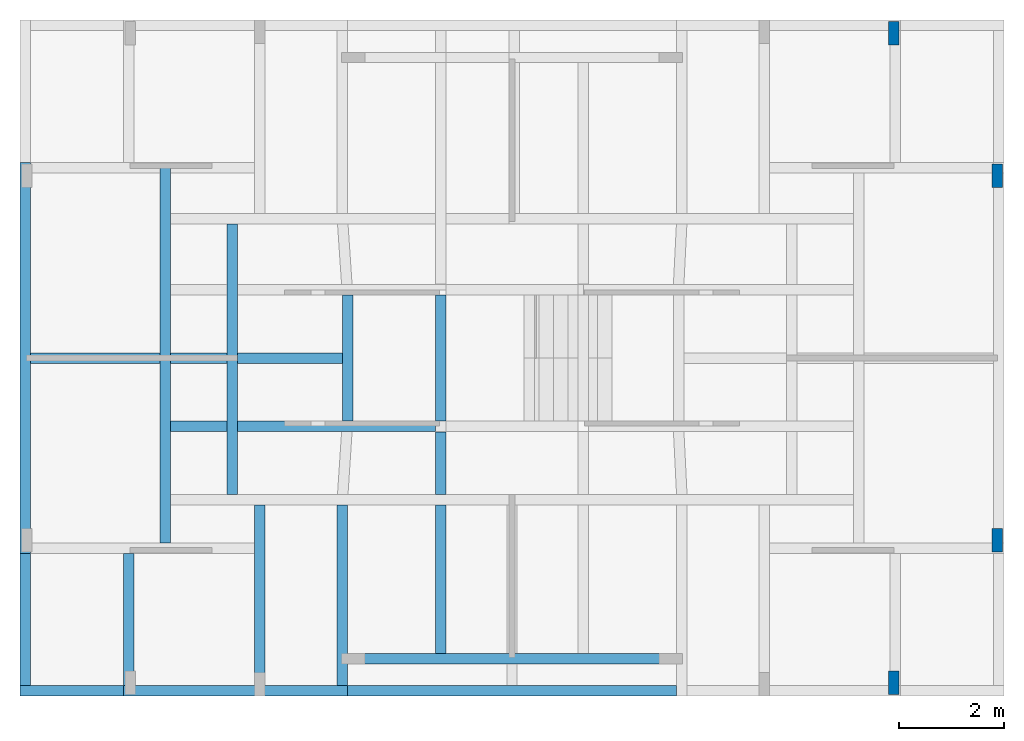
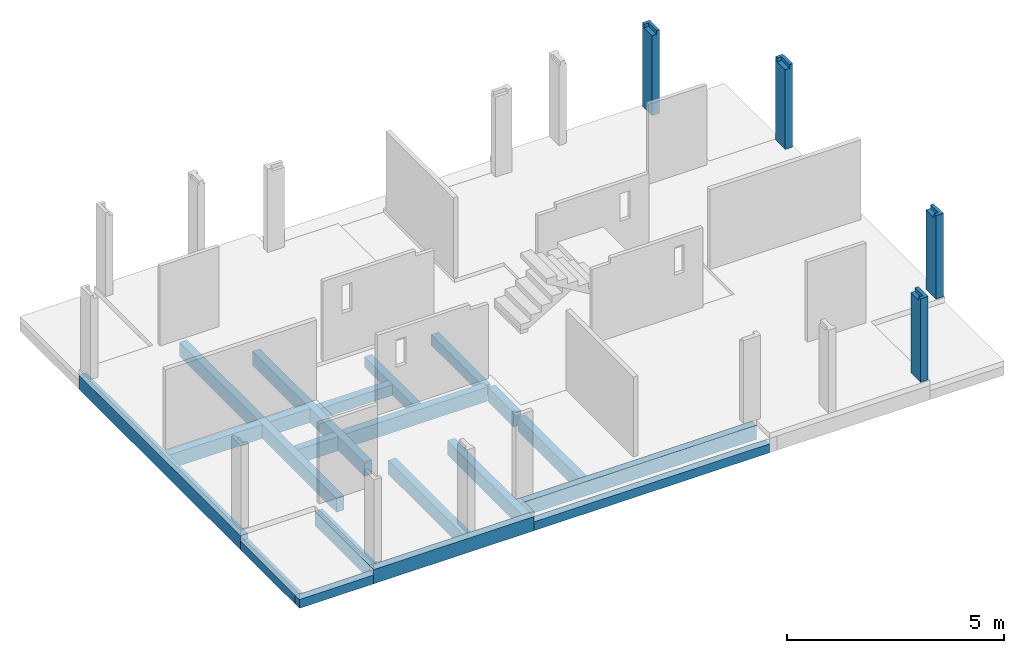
# One storey, part 1 of 7: 17 beams, 4 columns.
"""IFC4 building model written with IfcOpenShell, lengths in metres."""

import ifcopenshell
import ifcopenshell.guid

model = None  # the IFC model being written
_history = None  # IfcOwnerHistory: only IFC2X3 demands one
_inside = {}  # id of a spatial element -> (the spatial element, [elements in it])
_under = {}  # id of a project, library or spatial element -> (it, [spatial elements below it])
_declared = {}  # id of a project -> (the project, [libraries it declares])
_typed = {}  # id of a type object -> (the type object, [elements of that type])
_made_of = {}  # id of a material, layer set ... -> (it, [elements and type objects made of it])


def new_model(schema):
    """Start an empty IFC model of exactly this schema.

    Asked for "IFC4X3", IfcOpenShell would pick the latest addendum, in which some entities
    have other attributes; the version numbers below select the first issue.
    IFC2X3 requires an IfcOwnerHistory on every rooted entity: one is made here for all.
    """
    global model, _history
    if schema == "IFC4X3":
        model = ifcopenshell.file(schema_version=(4, 3, 0, 0))
    else:
        model = ifcopenshell.file(schema=schema)
    _inside.clear()
    _under.clear()
    _declared.clear()
    _typed.clear()
    _made_of.clear()
    _history = None
    if model.schema == "IFC2X3":
        org = make("IfcOrganization", Name="unknown")
        user = make(
            "IfcPersonAndOrganization",
            ThePerson=make("IfcPerson", FamilyName="unknown"),
            TheOrganization=org,
        )
        app = make(
            "IfcApplication",
            ApplicationDeveloper=org,
            Version="unknown",
            ApplicationFullName="unknown",
            ApplicationIdentifier="unknown",
        )
        _history = make(
            "IfcOwnerHistory",
            OwningUser=user,
            OwningApplication=app,
            ChangeAction="ADDED",
            CreationDate=0,
        )
    return model


def make(cls, **values):
    """One entity of the class cls with the attributes given. An attribute that is None is left unset."""
    return model.create_entity(
        cls, **{name: value for name, value in values.items() if value is not None}
    )


def entity(cls, *values):
    """Any entity or typed value of the class cls, its attributes in the order of the schema. None: left unset."""
    e = model.create_entity(cls)
    for i, value in enumerate(values):
        if value is not None:
            e[i] = value
    return e


def rooted(cls, **values):
    """An entity with a GlobalId (a new one), such as an element, a storey or a relation."""
    return make(cls, GlobalId=ifcopenshell.guid.new(), OwnerHistory=_history, **values)


def si_unit(unit_type, name, prefix=None):
    """IfcSIUnit, for example si_unit("LENGTHUNIT", "METRE", prefix="MILLI")."""
    return make("IfcSIUnit", UnitType=unit_type, Prefix=prefix, Name=name)


def converted_unit(unit_type, name, factor, base, dimensions=None, offset=None):
    """IfcConversionBasedUnit, such as the inch: factor (a typed value) times the base unit."""
    return make(
        "IfcConversionBasedUnit"
        if offset is None
        else "IfcConversionBasedUnitWithOffset",
        ConversionOffset=offset,
        Dimensions=None
        if dimensions is None
        else entity("IfcDimensionalExponents", *dimensions),
        UnitType=unit_type,
        Name=name,
        ConversionFactor=make(
            "IfcMeasureWithUnit", ValueComponent=factor, UnitComponent=base
        ),
    )


def derived_unit(unit_type, elements):
    """IfcDerivedUnit: a product of units, each with its exponent."""
    return make(
        "IfcDerivedUnit",
        Elements=[
            make("IfcDerivedUnitElement", Unit=unit, Exponent=power)
            for unit, power in elements
        ],
        UnitType=unit_type,
    )


def assignment(units):
    """IfcUnitAssignment: the units of a project."""
    return None if units is None else make("IfcUnitAssignment", Units=units)


def point(xyz):
    """IfcCartesianPoint."""
    return None if xyz is None else make("IfcCartesianPoint", Coordinates=xyz)


def direction(xyz):
    """IfcDirection."""
    return None if xyz is None else make("IfcDirection", DirectionRatios=xyz)


def frame(location, z_axis=None, x_axis=None):
    """IfcAxis2Placement3D, a coordinate frame: its origin and axes. An axis left out is left unset."""
    return make(
        "IfcAxis2Placement3D",
        Location=point(location),
        Axis=direction(z_axis),
        RefDirection=direction(x_axis),
    )


def origin():
    """The frame at (0, 0, 0) with its axes left unset."""
    return frame((0.0, 0.0, 0.0))


def place(relative_to, where):
    """IfcLocalPlacement: puts the frame where relative to a parent placement (None: the world)."""
    return make(
        "IfcLocalPlacement", PlacementRelTo=relative_to, RelativePlacement=where
    )


def context(
    kind, dimensions, precision=None, world=None, true_north=None, identifier=None
):
    """IfcGeometricRepresentationContext, for example the 3D "Model" context."""
    return make(
        "IfcGeometricRepresentationContext",
        ContextIdentifier=identifier,
        ContextType=kind,
        CoordinateSpaceDimension=dimensions,
        Precision=precision,
        WorldCoordinateSystem=world,
        TrueNorth=true_north,
    )


def subcontext(parent, identifier, kind, view, scale=None):
    """IfcGeometricRepresentationSubContext, for example "Body" below "Model"."""
    return make(
        "IfcGeometricRepresentationSubContext",
        ContextIdentifier=identifier,
        ContextType=kind,
        ParentContext=parent,
        TargetScale=scale,
        TargetView=view,
    )


def project(units=None, contexts=None):
    """IfcProject with its units and contexts."""
    return rooted(
        "IfcProject",
        Name="project",
        RepresentationContexts=contexts,
        UnitsInContext=assignment(units),
    )


def spatial(cls, under=None, at=None, **own):
    """A site, building, storey or space (cls), placed at a placement, below another one or the project."""
    s = rooted(cls, ObjectPlacement=at, **own)
    if under is not None:
        _under.setdefault(under.id(), (under, []))[1].append(s)
    return s


def point_list(points):
    """IfcCartesianPointList2D or 3D."""
    cls = (
        "IfcCartesianPointList2D" if len(points[0]) == 2 else "IfcCartesianPointList3D"
    )
    return make(cls, CoordList=points)


def indexed_curve(points, segments=None, self_intersect=None):
    """IfcIndexedPolyCurve: lines and arcs through numbered points (the first is 1)."""
    return make(
        "IfcIndexedPolyCurve",
        Points=point_list(points),
        Segments=segments,
        SelfIntersect=self_intersect,
    )


def outline(outer, holes=None, kind="AREA"):
    """IfcArbitraryClosedProfileDef: a profile drawn as a closed curve; with holes, ...WithVoids."""
    if holes is None:
        return make("IfcArbitraryClosedProfileDef", ProfileType=kind, OuterCurve=outer)
    return make(
        "IfcArbitraryProfileDefWithVoids",
        ProfileType=kind,
        OuterCurve=outer,
        InnerCurves=holes,
    )


def extrude(swept, where, along, depth):
    """IfcExtrudedAreaSolid: the profile swept, set in the frame where, extruded along a direction by depth."""
    return make(
        "IfcExtrudedAreaSolid",
        SweptArea=swept,
        Position=where,
        ExtrudedDirection=direction(along),
        Depth=depth,
    )


def polygons(points, faces, closed=None, point_numbers=None):
    """IfcPolygonalFaceSet: a face is its outer loop, then its inner loops; points numbered from 1."""
    made = []
    for loops in faces:
        if len(loops) == 1:
            made.append(make("IfcIndexedPolygonalFace", CoordIndex=loops[0]))
        else:
            made.append(
                make(
                    "IfcIndexedPolygonalFaceWithVoids",
                    CoordIndex=loops[0],
                    InnerCoordIndices=loops[1:],
                )
            )
    return make(
        "IfcPolygonalFaceSet",
        Coordinates=point_list(points),
        Closed=closed,
        Faces=made,
        PnIndex=point_numbers,
    )


def shape(context_of_items, identifier, shape_type, items):
    """IfcShapeRepresentation: the items that make up one representation, for example the "Body"."""
    return make(
        "IfcShapeRepresentation",
        ContextOfItems=context_of_items,
        RepresentationIdentifier=identifier,
        RepresentationType=shape_type,
        Items=items,
    )


def source(mapping_origin, context_of_items, identifier, shape_type, items):
    """IfcRepresentationMap: a shape defined once, which mapped items show again and again."""
    return make(
        "IfcRepresentationMap",
        MappingOrigin=mapping_origin,
        MappedRepresentation=shape(context_of_items, identifier, shape_type, items),
    )


def transform(
    local_origin,
    x_axis=None,
    y_axis=None,
    z_axis=None,
    scale=None,
    scale2=None,
    scale3=None,
    uniform=True,
):
    """IfcCartesianTransformationOperator3D, or its non-uniform kind. x_axis, y_axis, z_axis: its Axis1, 2, 3."""
    if uniform:
        return make(
            "IfcCartesianTransformationOperator3D",
            Axis1=direction(x_axis),
            Axis2=direction(y_axis),
            LocalOrigin=point(local_origin),
            Scale=scale,
            Axis3=direction(z_axis),
        )
    return make(
        "IfcCartesianTransformationOperator3DnonUniform",
        Axis1=direction(x_axis),
        Axis2=direction(y_axis),
        LocalOrigin=point(local_origin),
        Scale=scale,
        Axis3=direction(z_axis),
        Scale2=scale2,
        Scale3=scale3,
    )


def mapped(mapping_source, mapping_target):
    """IfcMappedItem: shows the shape of a source again, moved by a transform."""
    return make(
        "IfcMappedItem", MappingSource=mapping_source, MappingTarget=mapping_target
    )


def material(Name=None, Category=None):
    """IfcMaterial."""
    return make("IfcMaterial", Name=Name, Category=Category)


def made_of(thing, what):
    """Note that an element or type object is made of a material, layer set ...; save() writes the relation."""
    if what is not None:
        _made_of.setdefault(what.id(), (what, []))[1].append(thing)
    return thing


def type_object(cls, material=None, **own):
    """A type object (cls), such as IfcWallType, which elements share."""
    return made_of(rooted(cls, **own), material)


def type_shapes(of_type, sources):
    """Give a type object the sources (RepresentationMaps) that its elements show as mapped items."""
    of_type.RepresentationMaps = sources


def element(
    cls,
    number,
    at=None,
    inside=None,
    cuts=None,
    type_object=None,
    material=None,
    context=None,
    identifier="Body",
    shape_type=None,
    held_by="IfcProductDefinitionShape",
    body=None,
    shapes=None,
    **own,
):
    """One element of the class cls, such as IfcWall. Its Tag is "e" and its number.

    at: its placement. inside: the storey or other place that contains it. cuts: it is an
    opening in that element (IfcRelVoidsElement). A single representation is given by context,
    identifier, shape_type and body (its items); several are given by shapes. held_by: the class
    of the entity that holds the representations. save() writes the other relations.
    """
    e = rooted(cls, Tag="e%d" % number, ObjectPlacement=at, **own)
    if body is not None:
        shapes = [shape(context, identifier, shape_type, body)]
    if shapes is not None:
        e.Representation = make(held_by, Representations=shapes)
    if inside is not None:
        _inside.setdefault(inside.id(), (inside, []))[1].append(e)
    if cuts is not None:
        rooted(
            "IfcRelVoidsElement", RelatingBuildingElement=cuts, RelatedOpeningElement=e
        )
    if type_object is not None:
        _typed.setdefault(type_object.id(), (type_object, []))[1].append(e)
    return made_of(e, material)


def aggregate(whole, parts):
    """IfcRelAggregates: a whole, such as a stair, and the parts it consists of."""
    return rooted("IfcRelAggregates", RelatingObject=whole, RelatedObjects=parts)


def save(model, path):
    """Write the relations noted so far, then the file.

    IfcRelAggregates (storeys below a building ...), IfcRelContainedInSpatialStructure (elements
    in a storey), IfcRelDefinesByType, IfcRelAssociatesMaterial and IfcRelDeclares: one each for
    every whole, place, type object, material and project.
    """
    for whole, parts in _under.values():
        aggregate(whole, parts)
    for where, things in _inside.values():
        rooted(
            "IfcRelContainedInSpatialStructure",
            RelatedElements=things,
            RelatingStructure=where,
        )
    for kind, things in _typed.values():
        rooted("IfcRelDefinesByType", RelatedObjects=things, RelatingType=kind)
    for what, things in _made_of.values():
        rooted("IfcRelAssociatesMaterial", RelatedObjects=things, RelatingMaterial=what)
    for by, libraries in _declared.values():
        rooted("IfcRelDeclares", RelatingContext=by, RelatedDefinitions=libraries)
    model.write(path)


model = new_model("IFC4")

# Units and contexts
model_context = context("Model", 3, precision=1e-05, world=origin(), true_north=direction((6.123031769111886e-17, 1.0)))
body_context = subcontext(model_context, "Body", "Model", "MODEL_VIEW")
ifc_project = project(units=[si_unit("LENGTHUNIT", "METRE"), si_unit("AREAUNIT", "SQUARE_METRE"), si_unit("VOLUMEUNIT", "CUBIC_METRE"), converted_unit("PLANEANGLEUNIT", "DEGREE", entity("IfcRatioMeasure", 0.017453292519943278), si_unit("PLANEANGLEUNIT", "RADIAN"), dimensions=[0, 0, 0, 0, 0, 0, 0]), si_unit("MASSUNIT", "GRAM", prefix="KILO"), derived_unit("MASSDENSITYUNIT", [(si_unit("MASSUNIT", "GRAM", prefix="KILO"), 1), (si_unit("LENGTHUNIT", "METRE"), -3)]), derived_unit("IONCONCENTRATIONUNIT", [(si_unit("MASSUNIT", "GRAM", prefix="KILO"), 1), (si_unit("LENGTHUNIT", "METRE"), -3)]), derived_unit("MOMENTOFINERTIAUNIT", [(si_unit("LENGTHUNIT", "METRE"), 4)]), si_unit("TIMEUNIT", "SECOND"), si_unit("FREQUENCYUNIT", "HERTZ"), si_unit("THERMODYNAMICTEMPERATUREUNIT", "DEGREE_CELSIUS"), derived_unit("THERMALTRANSMITTANCEUNIT", [(si_unit("MASSUNIT", "GRAM", prefix="KILO"), 1), (si_unit("THERMODYNAMICTEMPERATUREUNIT", "KELVIN"), -1), (si_unit("TIMEUNIT", "SECOND"), -3)]), derived_unit("THERMALCONDUCTANCEUNIT", [(si_unit("MASSUNIT", "GRAM", prefix="KILO"), 1), (si_unit("THERMODYNAMICTEMPERATUREUNIT", "KELVIN"), -1), (si_unit("TIMEUNIT", "SECOND"), -3), (si_unit("LENGTHUNIT", "METRE"), 1)]), derived_unit("VOLUMETRICFLOWRATEUNIT", [(si_unit("LENGTHUNIT", "METRE"), 3), (si_unit("TIMEUNIT", "SECOND"), -1)]), derived_unit("MASSFLOWRATEUNIT", [(si_unit("MASSUNIT", "GRAM", prefix="KILO"), 1), (si_unit("TIMEUNIT", "SECOND"), -1)]), derived_unit("ROTATIONALFREQUENCYUNIT", [(si_unit("TIMEUNIT", "SECOND"), -1)]), si_unit("ELECTRICCURRENTUNIT", "AMPERE"), si_unit("ELECTRICVOLTAGEUNIT", "VOLT"), si_unit("POWERUNIT", "WATT"), si_unit("FORCEUNIT", "NEWTON", prefix="KILO"), si_unit("ILLUMINANCEUNIT", "LUX"), si_unit("LUMINOUSFLUXUNIT", "LUMEN"), si_unit("LUMINOUSINTENSITYUNIT", "CANDELA"), derived_unit("USERDEFINED", [(si_unit("MASSUNIT", "GRAM", prefix="KILO"), -1), (si_unit("LENGTHUNIT", "METRE"), -2), (si_unit("TIMEUNIT", "SECOND"), 3), (si_unit("LUMINOUSFLUXUNIT", "LUMEN"), 1)]), derived_unit("USERDEFINED", [(si_unit("MASSUNIT", "GRAM", prefix="KILO"), 1), (si_unit("TIMEUNIT", "SECOND"), -3), (si_unit("LENGTHUNIT", "METRE"), 3), (si_unit("ELECTRICCURRENTUNIT", "AMPERE"), -2)]), derived_unit("SOUNDPOWERUNIT", [(si_unit("MASSUNIT", "GRAM", prefix="KILO"), 1), (si_unit("TIMEUNIT", "SECOND"), -3), (si_unit("LENGTHUNIT", "METRE"), 2)]), derived_unit("SOUNDPRESSUREUNIT", [(si_unit("MASSUNIT", "GRAM", prefix="KILO"), 1), (si_unit("LENGTHUNIT", "METRE"), -1), (si_unit("TIMEUNIT", "SECOND"), -2)]), derived_unit("LINEARVELOCITYUNIT", [(si_unit("LENGTHUNIT", "METRE"), 1), (si_unit("TIMEUNIT", "SECOND"), -1)]), si_unit("PRESSUREUNIT", "PASCAL"), derived_unit("USERDEFINED", [(si_unit("MASSUNIT", "GRAM", prefix="KILO"), 1), (si_unit("LENGTHUNIT", "METRE"), -2), (si_unit("TIMEUNIT", "SECOND"), -2)]), derived_unit("LINEARFORCEUNIT", [(si_unit("MASSUNIT", "GRAM", prefix="KILO"), 1), (si_unit("TIMEUNIT", "SECOND"), -2)]), derived_unit("PLANARFORCEUNIT", [(si_unit("MASSUNIT", "GRAM", prefix="KILO"), 1), (si_unit("LENGTHUNIT", "METRE"), -1), (si_unit("TIMEUNIT", "SECOND"), -2)]), derived_unit("SPECIFICHEATCAPACITYUNIT", [(si_unit("THERMODYNAMICTEMPERATUREUNIT", "KELVIN"), -1), (si_unit("LENGTHUNIT", "METRE"), 2), (si_unit("TIMEUNIT", "SECOND"), -2)]), derived_unit("HEATINGVALUEUNIT", [(si_unit("LENGTHUNIT", "METRE"), 2), (si_unit("TIMEUNIT", "SECOND"), -2)]), derived_unit("VAPORPERMEABILITYUNIT", [(si_unit("LENGTHUNIT", "METRE"), -1), (si_unit("TIMEUNIT", "SECOND"), 1)]), derived_unit("DYNAMICVISCOSITYUNIT", [(si_unit("MASSUNIT", "GRAM", prefix="KILO"), 1), (si_unit("TIMEUNIT", "SECOND"), -1), (si_unit("LENGTHUNIT", "METRE"), -1)]), derived_unit("THERMALEXPANSIONCOEFFICIENTUNIT", [(si_unit("THERMODYNAMICTEMPERATUREUNIT", "KELVIN"), -1)]), derived_unit("MODULUSOFELASTICITYUNIT", [(si_unit("MASSUNIT", "GRAM", prefix="KILO"), 1), (si_unit("LENGTHUNIT", "METRE"), -1), (si_unit("TIMEUNIT", "SECOND"), -2)]), derived_unit("ISOTHERMALMOISTURECAPACITYUNIT", [(si_unit("LENGTHUNIT", "METRE"), 3), (si_unit("MASSUNIT", "GRAM", prefix="KILO"), -1)]), derived_unit("MOISTUREDIFFUSIVITYUNIT", [(si_unit("TIMEUNIT", "SECOND"), -1), (si_unit("LENGTHUNIT", "METRE"), 2)])], contexts=[model_context])

# Site, building, storey
site_placement = place(None, origin())
site = spatial("IfcSite", under=ifc_project, at=site_placement, Name="Default", CompositionType="ELEMENT")
building_placement = place(site_placement, origin())
building = spatial("IfcBuilding", under=site, at=building_placement, Name="Las nubes", CompositionType="ELEMENT")
storey_placement = place(building_placement, origin())
storey = spatial("IfcBuildingStorey", under=building, at=storey_placement, Name="CIMENTACIÓN", CompositionType="ELEMENT", Elevation=-3.522347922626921e-13)

# Columns
ifc_material_1 = material(Name="Concrete, Cast-in-Place gray", Category="Materials")
column_type_1 = type_object("IfcColumnType", Name="M_Concrete-Rectangular-Column:300 x 450mm", PredefinedType="COLUMN", material=ifc_material_1)
shared_shape_1 = source(origin(), body_context, "Body", "Tessellation", [
    polygons([(-2.1657342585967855e-15, 5.414335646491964e-16, 0.0), (-2.1657342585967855e-15, 0.45000000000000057, 0.0), (0.19999999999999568, 0.45000000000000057, 0.0), (0.19999999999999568, 5.414335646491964e-16, 0.0), (-2.1657342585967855e-15, 5.414335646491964e-16, 2.250000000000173), (-2.1657342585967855e-15, 0.36499999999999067, 2.250000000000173), (-2.1657342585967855e-15, 0.36499999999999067, 2.3500000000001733), (-2.1657342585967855e-15, 0.45000000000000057, 2.3500000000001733), (0.19999999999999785, 5.414335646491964e-16, 2.2500000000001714), (0.19999999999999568, 5.414335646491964e-16, 2.3500000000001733), (0.11499999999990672, 5.414335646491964e-16, 2.3500000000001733), (0.11499999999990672, 5.414335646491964e-16, 2.2500000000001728), (0.19999999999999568, 0.45000000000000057, 2.3500000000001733), (0.11499999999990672, 0.36499999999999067, 2.3500000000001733), (0.11499999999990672, 0.36499999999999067, 2.250000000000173)], [[[1, 2, 3, 4]], [[2, 1, 5, 6, 7, 8]], [[1, 4, 9, 10, 11, 12, 5]], [[4, 3, 13, 10, 9]], [[3, 2, 8, 13]], [[10, 13, 8, 7, 14, 11]], [[12, 15, 6, 5]], [[14, 15, 12, 11]], [[15, 14, 7, 6]]], closed=True),
])
type_shapes(column_type_1, [shared_shape_1])
column_1_placement = place(storey_placement, frame((18.472500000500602, -3.175000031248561, 0.0)))
element("IfcColumn", 1, at=column_1_placement, inside=storey, type_object=column_type_1, material=ifc_material_1, Name="M_Concrete-Rectangular-Column:300 x 450mm", ObjectType="M_Concrete-Rectangular-Column:300 x 450mm", PredefinedType="COLUMN", context=body_context, shape_type="MappedRepresentation", body=[
    mapped(shared_shape_1, transform((0.0, 0.0, 0.0), scale=1.0)),
])
column_type_2 = type_object("IfcColumnType", Name="M_Concrete-Rectangular-Column:300 x 450mm", PredefinedType="COLUMN", material=ifc_material_1)
shared_shape_2 = source(origin(), body_context, "Body", "Tessellation", [
    polygons([(0.0, 0.0, 0.0), (0.0, 0.45, 0.0), (0.2, 0.45, 0.0), (0.2, 0.0, 0.0), (0.0, 0.0, 2.250000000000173), (0.0, 0.3649999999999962, 2.250000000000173), (0.0, 0.36499999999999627, 2.3500000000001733), (0.0, 0.45, 2.3500000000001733), (0.2, 0.0, 2.2500000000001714), (0.2, 0.0, 2.3500000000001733), (0.11499999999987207, 0.0, 2.3500000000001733), (0.11499999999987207, 0.0, 2.250000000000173), (0.2, 0.45, 2.3500000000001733), (0.11499999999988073, 0.3649999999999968, 2.3500000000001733), (0.11499999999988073, 0.3649999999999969, 2.250000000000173)], [[[1, 2, 3, 4]], [[2, 1, 5, 6, 7, 8]], [[1, 4, 9, 10, 11, 12, 5]], [[4, 3, 13, 10, 9]], [[3, 2, 8, 13]], [[10, 13, 8, 7, 14, 11]], [[15, 6, 5, 12]], [[15, 14, 7, 6]], [[14, 15, 12, 11]]], closed=True),
])
type_shapes(column_type_2, [shared_shape_2])
column_2_placement = place(storey_placement, frame((16.497500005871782, -0.46000002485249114, 0.0)))
element("IfcColumn", 2, at=column_2_placement, inside=storey, type_object=column_type_2, material=ifc_material_1, Name="M_Concrete-Rectangular-Column:300 x 450mm", ObjectType="M_Concrete-Rectangular-Column:300 x 450mm", PredefinedType="COLUMN", context=body_context, shape_type="MappedRepresentation", body=[
    mapped(shared_shape_2, transform((0.0, 0.0, 0.0), scale=1.0)),
])
column_type_3 = type_object("IfcColumnType", Name="M_Concrete-Rectangular-Column:300 x 450mm", PredefinedType="COLUMN", material=ifc_material_1)
shared_shape_3 = source(origin(), body_context, "Body", "Tessellation", [
    polygons([(2.1657342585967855e-15, 2.1657342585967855e-15, 0.0), (6.497202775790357e-15, 0.4500000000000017, 0.0), (0.20000000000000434, 0.45000000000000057, 0.0), (0.20000000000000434, 0.0, 0.0), (2.1657342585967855e-15, 2.1657342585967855e-15, 2.3500000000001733), (2.1657342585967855e-15, 0.08500000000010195, 2.3500000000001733), (2.1657342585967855e-15, 0.08500000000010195, 2.250000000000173), (6.497202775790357e-15, 0.4500000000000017, 2.250000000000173), (0.11499999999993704, 0.4500000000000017, 2.250000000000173), (0.11499999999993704, 0.4500000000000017, 2.3500000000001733), (0.2000000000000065, 0.4499999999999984, 2.3500000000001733), (0.2000000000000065, 0.45000000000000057, 2.2500000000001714), (0.20000000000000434, 0.0, 2.3500000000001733), (0.11499999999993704, 0.08500000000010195, 2.3500000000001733), (0.11499999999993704, 0.08500000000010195, 2.250000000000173)], [[[1, 2, 3, 4]], [[2, 1, 5, 6, 7, 8]], [[3, 2, 8, 9, 10, 11, 12]], [[4, 3, 12, 11, 13]], [[1, 4, 13, 5]], [[13, 11, 10, 14, 6, 5]], [[7, 15, 9, 8]], [[14, 15, 7, 6]], [[15, 14, 10, 9]]], closed=True),
])
type_shapes(column_type_3, [shared_shape_3])
column_3_placement = place(storey_placement, frame((18.472500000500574, -10.125000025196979, 0.0)))
element("IfcColumn", 3, at=column_3_placement, inside=storey, type_object=column_type_3, material=ifc_material_1, Name="M_Concrete-Rectangular-Column:300 x 450mm", ObjectType="M_Concrete-Rectangular-Column:300 x 450mm", PredefinedType="COLUMN", context=body_context, shape_type="MappedRepresentation", body=[
    mapped(shared_shape_3, transform((0.0, 0.0, 0.0), scale=1.0)),
])
column_type_4 = type_object("IfcColumnType", Name="M_Concrete-Rectangular-Column:300 x 450mm", PredefinedType="COLUMN", material=ifc_material_1)
shared_shape_4 = source(origin(), body_context, "Body", "Tessellation", [
    polygons([(0.0, 0.0, 0.0), (2.1657342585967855e-15, 0.4499999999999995, 0.0), (0.20000000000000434, 0.4499999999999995, 0.0), (0.2, -2.1657342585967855e-15, 0.0), (0.0, 0.0, 2.3500000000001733), (0.0, 0.08500000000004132, 2.3500000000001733), (2.1657342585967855e-15, 0.08500000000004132, 2.250000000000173), (6.497202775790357e-15, 0.4499999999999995, 2.250000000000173), (0.11499999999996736, 0.4499999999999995, 2.250000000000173), (0.11499999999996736, 0.4499999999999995, 2.3500000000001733), (0.2, 0.44999999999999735, 2.3500000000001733), (0.20000000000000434, 0.4499999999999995, 2.2500000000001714), (0.2, -2.1657342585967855e-15, 2.3500000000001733), (0.11499999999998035, 0.08500000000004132, 2.3500000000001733), (0.11499999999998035, 0.08500000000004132, 2.250000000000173)], [[[1, 2, 3, 4]], [[2, 1, 5, 6, 7, 8]], [[3, 2, 8, 9, 10, 11, 12]], [[4, 3, 12, 11, 13]], [[1, 4, 13, 5]], [[13, 11, 10, 14, 6, 5]], [[15, 9, 8, 7]], [[14, 15, 7, 6]], [[15, 14, 10, 9]]], closed=True),
])
type_shapes(column_type_4, [shared_shape_4])
column_4_placement = place(storey_placement, frame((16.497500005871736, -12.84000003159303, 0.0)))
element("IfcColumn", 4, at=column_4_placement, inside=storey, type_object=column_type_4, material=ifc_material_1, Name="M_Concrete-Rectangular-Column:300 x 450mm", ObjectType="M_Concrete-Rectangular-Column:300 x 450mm", PredefinedType="COLUMN", context=body_context, shape_type="MappedRepresentation", body=[
    mapped(shared_shape_4, transform((0.0, 0.0, 0.0), scale=1.0)),
])

# Beams
ifc_material_2 = material(Name="Concrete, Cast In Situ", Category="Materials")
beam_type_1 = type_object("IfcBeamType", Name="M_Concrete-Rectangular Beam:(0.20x0.55)", PredefinedType="BEAM", material=ifc_material_2)
shared_shape_5 = source(origin(), body_context, "Body", "SweptSolid", [
    extrude(outline(indexed_curve([(-0.22142857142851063, -4.2627896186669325), (0.028571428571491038, -4.2627896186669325), (0.17857142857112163, -4.2627896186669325), (0.17857142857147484, 3.196974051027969), (0.028571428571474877, 3.196974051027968), (0.028571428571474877, 3.1972103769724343), (-0.22142857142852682, 3.197210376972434), (-0.22142857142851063, -4.2627896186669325)], self_intersect=False)), frame((-0.05749999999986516, -6.957789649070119, -0.328571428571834), z_axis=(1.0, 0.0, 0.0), x_axis=(0.0, 0.0, 1.0)), (0.0, 0.0, 1.0), 0.20000000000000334),
])
type_shapes(beam_type_1, [shared_shape_5])
beam_1_placement = place(storey_placement, origin())
element("IfcBeam", 5, at=beam_1_placement, inside=storey, type_object=beam_type_1, material=ifc_material_2, Name="M_Concrete-Rectangular Beam:(0.20x0.55)", ObjectType="M_Concrete-Rectangular Beam:(0.20x0.55)", PredefinedType="BEAM", context=body_context, shape_type="MappedRepresentation", body=[
    mapped(shared_shape_5, transform((0.0, 0.0, 0.0), scale=1.0)),
])
beam_type_2 = type_object("IfcBeamType", Name="M_Concrete-Rectangular Beam:(0.20x0.55)", PredefinedType="BEAM", material=ifc_material_2)
shared_shape_6 = source(origin(), body_context, "Body", "SweptSolid", [
    extrude(outline(indexed_curve([(-0.10000000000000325, -0.19999999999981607), (0.1, -0.19999999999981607), (0.10000000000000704, 0.19999999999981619), (-0.10000000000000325, 0.19999999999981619), (-0.10000000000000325, -0.19999999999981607)], self_intersect=False)), frame((4.509999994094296, -12.670000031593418, -0.3500000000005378), z_axis=(0.0, 1.0, 0.0), x_axis=(-1.0, 0.0, 0.0)), (0.0, 0.0, 1.0), 3.4450000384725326),
])
type_shapes(beam_type_2, [shared_shape_6])
beam_2_placement = place(storey_placement, origin())
element("IfcBeam", 6, at=beam_2_placement, inside=storey, type_object=beam_type_2, material=ifc_material_2, Name="M_Concrete-Rectangular Beam:(0.20x0.55)", ObjectType="M_Concrete-Rectangular Beam:(0.20x0.55)", PredefinedType="BEAM", context=body_context, shape_type="MappedRepresentation", body=[
    mapped(shared_shape_6, transform((0.0, 0.0, 0.0), scale=1.0)),
])
beam_type_3 = type_object("IfcBeamType", Name="M_Concrete-Rectangular Beam:(0.20x0.55)", PredefinedType="BEAM", material=ifc_material_2)
shared_shape_7 = source(origin(), body_context, "Body", "SweptSolid", [
    extrude(outline(indexed_curve([(-0.19999999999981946, -0.0999999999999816), (0.19999999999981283, -0.10000000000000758), (0.19999999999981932, 0.09999999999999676), (-0.19999999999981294, 0.10000000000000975), (-0.19999999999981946, -0.0999999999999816)], self_intersect=False)), frame((1.9174999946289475, -12.770000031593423, -0.3500000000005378), z_axis=(1.0, 0.0, 0.0), x_axis=(0.0, 0.0, -1.0)), (0.0, 0.0, 1.0), 4.264999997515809),
])
type_shapes(beam_type_3, [shared_shape_7])
beam_3_placement = place(storey_placement, origin())
element("IfcBeam", 7, at=beam_3_placement, inside=storey, type_object=beam_type_3, material=ifc_material_2, Name="M_Concrete-Rectangular Beam:(0.20x0.55)", ObjectType="M_Concrete-Rectangular Beam:(0.20x0.55)", PredefinedType="BEAM", context=body_context, shape_type="MappedRepresentation", body=[
    mapped(shared_shape_7, transform((0.0, 0.0, 0.0), scale=1.0)),
])
beam_type_4 = type_object("IfcBeamType", Name="M_Concrete-Rectangular Beam:(0.20x0.55)", PredefinedType="BEAM", material=ifc_material_2)
shared_shape_8 = source(origin(), body_context, "Body", "SweptSolid", [
    extrude(outline(indexed_curve([(-0.10000000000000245, -0.19999999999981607), (0.10000000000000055, -0.19999999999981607), (0.10000000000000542, 0.19999999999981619), (-0.10000000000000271, 0.19999999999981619), (-0.10000000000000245, -0.19999999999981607)], self_intersect=False)), frame((2.0174999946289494, -12.670000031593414, -0.3500000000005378), z_axis=(0.0, 1.0, 0.0), x_axis=(-1.0, 0.0, 0.0)), (0.0, 0.0, 1.0), 2.5150000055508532),
])
type_shapes(beam_type_4, [shared_shape_8])
beam_4_placement = place(storey_placement, origin())
element("IfcBeam", 8, at=beam_4_placement, inside=storey, type_object=beam_type_4, material=ifc_material_2, Name="M_Concrete-Rectangular Beam:(0.20x0.55)", ObjectType="M_Concrete-Rectangular Beam:(0.20x0.55)", PredefinedType="BEAM", context=body_context, shape_type="MappedRepresentation", body=[
    mapped(shared_shape_8, transform((0.0, 0.0, 0.0), scale=1.0)),
])
beam_type_5 = type_object("IfcBeamType", Name="M_Concrete-Rectangular Beam:(0.20x0.55)", PredefinedType="BEAM", material=ifc_material_2)
shared_shape_9 = source(origin(), body_context, "Body", "SweptSolid", [
    extrude(outline(indexed_curve([(-0.10000000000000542, -0.19999999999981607), (0.09999999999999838, -0.19999999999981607), (0.10000000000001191, 0.19999999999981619), (-0.10000000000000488, 0.19999999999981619), (-0.10000000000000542, -0.19999999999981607)], self_intersect=False)), frame((2.710001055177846, -9.955000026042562, -0.3500000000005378), z_axis=(0.0, 1.0, 0.0), x_axis=(-1.0, 0.0, 0.0)), (0.0, 0.0, 1.0), 7.245000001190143),
])
type_shapes(beam_type_5, [shared_shape_9])
beam_5_placement = place(storey_placement, origin())
element("IfcBeam", 9, at=beam_5_placement, inside=storey, type_object=beam_type_5, material=ifc_material_2, Name="M_Concrete-Rectangular Beam:(0.20x0.55)", ObjectType="M_Concrete-Rectangular Beam:(0.20x0.55)", PredefinedType="BEAM", context=body_context, shape_type="MappedRepresentation", body=[
    mapped(shared_shape_9, transform((0.0, 0.0, 0.0), scale=1.0)),
])
beam_type_6 = type_object("IfcBeamType", Name="M_Concrete-Rectangular Beam:(0.20x0.55)", PredefinedType="BEAM", material=ifc_material_2)
shared_shape_10 = source(origin(), body_context, "Body", "SweptSolid", [
    extrude(outline(indexed_curve([(-0.1000000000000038, -0.19999999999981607), (0.1, -0.19999999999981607), (0.10000000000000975, 0.19999999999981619), (-0.10000000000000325, 0.19999999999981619), (-0.1000000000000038, -0.19999999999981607)], self_intersect=False)), frame((3.987499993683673, -9.024999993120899, -0.3500000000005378), z_axis=(0.0, 1.0, 0.0), x_axis=(-1.0, 0.0, 0.0)), (0.0, 0.0, 1.0), 5.157500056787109),
])
type_shapes(beam_type_6, [shared_shape_10])
beam_6_placement = place(storey_placement, origin())
element("IfcBeam", 10, at=beam_6_placement, inside=storey, type_object=beam_type_6, material=ifc_material_2, Name="M_Concrete-Rectangular Beam:(0.20x0.55)", ObjectType="M_Concrete-Rectangular Beam:(0.20x0.55)", PredefinedType="BEAM", context=body_context, shape_type="MappedRepresentation", body=[
    mapped(shared_shape_10, transform((0.0, 0.0, 0.0), scale=1.0)),
])
beam_type_7 = type_object("IfcBeamType", Name="M_Concrete-Rectangular Beam:(0.20x0.55)", PredefinedType="BEAM", material=ifc_material_2)
shared_shape_11 = source(origin(), body_context, "Body", "SweptSolid", [
    extrude(outline(indexed_curve([(-0.1999999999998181, -0.0999999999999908), (0.19999999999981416, -0.10000000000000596), (0.19999999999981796, 0.0999999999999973), (-0.1999999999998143, 0.10000000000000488), (-0.1999999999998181, -0.0999999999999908)], self_intersect=False)), frame((0.1425000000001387, -6.425000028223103, -0.3500000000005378), z_axis=(1.0, 0.0, 0.0), x_axis=(0.0, 0.0, -1.0)), (0.0, 0.0, 1.0), 2.467501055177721),
    extrude(outline(indexed_curve([(-0.19999999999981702, -0.0999999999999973), (0.19999999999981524, -0.1000000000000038), (0.19999999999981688, 0.09999999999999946), (-0.19999999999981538, 0.10000000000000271), (-0.19999999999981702, -0.0999999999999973)], self_intersect=False)), frame((2.8100010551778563, -6.425000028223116, -0.3500000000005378), z_axis=(1.0, 0.0, 0.0), x_axis=(0.0, 0.0, -1.0)), (0.0, 0.0, 1.0), 1.0774989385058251),
])
type_shapes(beam_type_7, [shared_shape_11])
beam_7_placement = place(storey_placement, origin())
element("IfcBeam", 11, at=beam_7_placement, inside=storey, type_object=beam_type_7, material=ifc_material_2, Name="M_Concrete-Rectangular Beam:(0.20x0.55)", ObjectType="M_Concrete-Rectangular Beam:(0.20x0.55)", PredefinedType="BEAM", context=body_context, shape_type="MappedRepresentation", body=[
    mapped(shared_shape_11, transform((0.0, 0.0, 0.0), scale=1.0)),
])
beam_type_8 = type_object("IfcBeamType", Name="M_Concrete-Rectangular Beam:(0.20x0.55)", PredefinedType="BEAM", material=ifc_material_2)
shared_shape_12 = source(origin(), body_context, "Body", "SweptSolid", [
    extrude(outline(indexed_curve([(-0.10000000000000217, -0.19999999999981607), (0.1, -0.19999999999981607), (0.10000000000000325, 0.19999999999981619), (-0.10000000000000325, 0.19999999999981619), (-0.10000000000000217, -0.19999999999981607)], self_intersect=False)), frame((7.962500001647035, -9.024999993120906, -0.3500000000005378), z_axis=(0.0, 1.0, 0.0), x_axis=(-1.0, 0.0, 0.0)), (0.0, 0.0, 1.0), 1.1872999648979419),
    extrude(outline(indexed_curve([(-0.10000000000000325, -0.19999999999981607), (0.1, -0.19999999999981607), (0.10000000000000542, 0.19999999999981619), (-0.10000000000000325, 0.19999999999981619), (-0.10000000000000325, -0.19999999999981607)], self_intersect=False)), frame((7.9625000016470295, -12.055000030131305, -0.3500000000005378), z_axis=(0.0, 1.0, 0.0), x_axis=(-1.0, 0.0, 0.0)), (0.0, 0.0, 1.0), 2.830000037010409),
])
type_shapes(beam_type_8, [shared_shape_12])
beam_8_placement = place(storey_placement, origin())
element("IfcBeam", 12, at=beam_8_placement, inside=storey, type_object=beam_type_8, material=ifc_material_2, Name="M_Concrete-Rectangular Beam:(0.20x0.55)", ObjectType="M_Concrete-Rectangular Beam:(0.20x0.55)", PredefinedType="BEAM", context=body_context, shape_type="MappedRepresentation", body=[
    mapped(shared_shape_12, transform((0.0, 0.0, 0.0), scale=1.0)),
])
beam_type_9 = type_object("IfcBeamType", Name="M_Concrete-Rectangular Beam:(0.20x0.55)", PredefinedType="BEAM", material=ifc_material_2)
shared_shape_13 = source(origin(), body_context, "Body", "SweptSolid", [
    extrude(outline(indexed_curve([(-0.19999999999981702, -0.09999999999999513), (0.19999999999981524, -0.10000000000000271), (0.19999999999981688, 0.09999999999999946), (-0.19999999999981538, 0.10000000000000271), (-0.19999999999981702, -0.09999999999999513)], self_intersect=False)), frame((2.810001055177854, -7.725000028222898, -0.3500000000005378), z_axis=(1.0, 0.0, 0.0), x_axis=(0.0, 0.0, -1.0)), (0.0, 0.0, 1.0), 1.0774989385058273),
    extrude(outline(indexed_curve([(-0.19999999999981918, -0.09999999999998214), (0.19999999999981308, -0.10000000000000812), (0.19999999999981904, 0.09999999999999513), (-0.19999999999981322, 0.10000000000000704), (-0.19999999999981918, -0.09999999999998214)], self_intersect=False)), frame((4.087499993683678, -7.725000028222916, -0.3500000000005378), z_axis=(1.0, 0.0, 0.0), x_axis=(0.0, 0.0, -1.0)), (0.0, 0.0, 1.0), 3.775000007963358),
])
type_shapes(beam_type_9, [shared_shape_13])
beam_9_placement = place(storey_placement, origin())
element("IfcBeam", 13, at=beam_9_placement, inside=storey, type_object=beam_type_9, material=ifc_material_2, Name="M_Concrete-Rectangular Beam:(0.20x0.55)", ObjectType="M_Concrete-Rectangular Beam:(0.20x0.55)", PredefinedType="BEAM", context=body_context, shape_type="MappedRepresentation", body=[
    mapped(shared_shape_13, transform((0.0, 0.0, 0.0), scale=1.0)),
])
beam_type_10 = type_object("IfcBeamType", Name="M_Concrete-Rectangular Beam:(0.20x0.55)", PredefinedType="BEAM", material=ifc_material_2)
shared_shape_14 = source(origin(), body_context, "Body", "SweptSolid", [
    extrude(outline(indexed_curve([(-0.19999999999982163, -0.09999999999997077), (0.19999999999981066, -0.10000000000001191), (0.1999999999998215, 0.09999999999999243), (-0.19999999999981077, 0.10000000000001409), (-0.19999999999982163, -0.09999999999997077)], self_intersect=False)), frame((6.18249999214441, -12.155000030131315, -0.3500000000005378), z_axis=(1.0, 0.0, 0.0), x_axis=(0.0, 0.0, -1.0)), (0.0, 0.0, 1.0), 6.280000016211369),
])
type_shapes(beam_type_10, [shared_shape_14])
beam_10_placement = place(storey_placement, origin())
element("IfcBeam", 14, at=beam_10_placement, inside=storey, type_object=beam_type_10, material=ifc_material_2, Name="M_Concrete-Rectangular Beam:(0.20x0.55)", ObjectType="M_Concrete-Rectangular Beam:(0.20x0.55)", PredefinedType="BEAM", context=body_context, shape_type="MappedRepresentation", body=[
    mapped(shared_shape_14, transform((0.0, 0.0, 0.0), scale=1.0)),
])
beam_type_11 = type_object("IfcBeamType", Name="M_Concrete-Rectangular Beam:(0.20x0.40)", PredefinedType="BEAM", material=ifc_material_2)
shared_shape_15 = source(origin(), body_context, "Body", "SweptSolid", [
    extrude(outline(indexed_curve([(-0.12500000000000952, -0.09999999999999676), (0.12499999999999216, -0.10000000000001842), (0.1250000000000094, 0.09999999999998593), (-0.12499999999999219, 0.10000000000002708), (-0.12500000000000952, -0.09999999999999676)], self_intersect=False)), frame((6.1824999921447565, -12.770000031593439, -0.42500000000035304), z_axis=(1.0, 0.0, 0.0), x_axis=(0.0, 0.0, -1.0)), (0.0, 0.0, 1.0), 6.280000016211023),
])
type_shapes(beam_type_11, [shared_shape_15])
beam_11_placement = place(storey_placement, origin())
element("IfcBeam", 15, at=beam_11_placement, inside=storey, type_object=beam_type_11, material=ifc_material_2, Name="M_Concrete-Rectangular Beam:(0.20x0.40)", ObjectType="M_Concrete-Rectangular Beam:(0.20x0.40)", PredefinedType="BEAM", context=body_context, shape_type="MappedRepresentation", body=[
    mapped(shared_shape_15, transform((0.0, 0.0, 0.0), scale=1.0)),
])
beam_type_12 = type_object("IfcBeamType", Name="M_Concrete-Rectangular Beam:(0.20x0.40)", PredefinedType="BEAM", material=ifc_material_2)
shared_shape_16 = source(origin(), body_context, "Body", "SweptSolid", [
    extrude(outline(indexed_curve([(-0.12500000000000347, -0.1), (0.12499999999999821, -0.1000000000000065), (0.12500000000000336, 0.09999999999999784), (-0.12499999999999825, 0.10000000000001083), (-0.12500000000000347, -0.1)], self_intersect=False)), frame((1.9174999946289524, -12.7700000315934, -0.42500000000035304), z_axis=(-1.0, 0.0, 0.0), x_axis=(0.0, 0.0, -1.0)), (0.0, 0.0, 1.0), 1.9749999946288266),
])
type_shapes(beam_type_12, [shared_shape_16])
beam_12_placement = place(storey_placement, origin())
element("IfcBeam", 16, at=beam_12_placement, inside=storey, type_object=beam_type_12, material=ifc_material_2, Name="M_Concrete-Rectangular Beam:(0.20x0.40)", ObjectType="M_Concrete-Rectangular Beam:(0.20x0.40)", PredefinedType="BEAM", context=body_context, shape_type="MappedRepresentation", body=[
    mapped(shared_shape_16, transform((0.0, 0.0, 0.0), scale=1.0)),
])
beam_type_13 = type_object("IfcBeamType", Name="M_Concrete-Rectangular Beam:(0.20x0.40)", PredefinedType="BEAM", material=ifc_material_2)
shared_shape_17 = source(origin(), body_context, "Body", "SweptSolid", [
    extrude(outline(indexed_curve([(-0.10000000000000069, -0.12500000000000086), (0.1000000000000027, -0.12500000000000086), (0.10000000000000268, 0.12500000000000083), (-0.10000000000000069, 0.12500000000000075), (-0.10000000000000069, -0.12500000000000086)], self_intersect=False)), frame((0.04250000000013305, -10.155000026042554, -0.42500000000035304), z_axis=(0.0, -1.0, 0.0), x_axis=(-1.0, 0.0, 0.0)), (0.0, 0.0, 1.0), 2.5150000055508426),
])
type_shapes(beam_type_13, [shared_shape_17])
beam_13_placement = place(storey_placement, origin())
element("IfcBeam", 17, at=beam_13_placement, inside=storey, type_object=beam_type_13, material=ifc_material_2, Name="M_Concrete-Rectangular Beam:(0.20x0.40)", ObjectType="M_Concrete-Rectangular Beam:(0.20x0.40)", PredefinedType="BEAM", context=body_context, shape_type="MappedRepresentation", body=[
    mapped(shared_shape_17, transform((0.0, 0.0, 0.0), scale=1.0)),
])
beam_type_14 = type_object("IfcBeamType", Name="M_Concrete-Rectangular Beam:(0.20x0.55)", PredefinedType="BEAM", material=ifc_material_2)
shared_shape_18 = source(origin(), body_context, "Body", "SweptSolid", [
    extrude(outline(indexed_curve([(-0.10000000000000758, -0.19999999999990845), (0.09999999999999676, -0.19999999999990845), (0.10000000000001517, 0.19999999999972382), (-0.1000000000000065, 0.20000000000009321), (-0.10000000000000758, -0.19999999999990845)], self_intersect=False)), frame((6.082499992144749, -12.67000003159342, -0.3500000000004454), z_axis=(0.0, 1.0, 0.0), x_axis=(-1.0, 0.0, 0.0)), (0.0, 0.0, 1.0), 3.4450000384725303),
])
type_shapes(beam_type_14, [shared_shape_18])
beam_14_placement = place(storey_placement, origin())
element("IfcBeam", 18, at=beam_14_placement, inside=storey, type_object=beam_type_14, material=ifc_material_2, Name="M_Concrete-Rectangular Beam:(0.20x0.55)", ObjectType="M_Concrete-Rectangular Beam:(0.20x0.55)", PredefinedType="BEAM", context=body_context, shape_type="MappedRepresentation", body=[
    mapped(shared_shape_18, transform((0.0, 0.0, 0.0), scale=1.0)),
])
beam_type_15 = type_object("IfcBeamType", Name="M_Concrete-Rectangular Beam:(0.20x0.45)", PredefinedType="BEAM", material=ifc_material_2)
shared_shape_19 = source(origin(), body_context, "Body", "SweptSolid", [
    extrude(outline(indexed_curve([(-0.10000000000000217, -0.15000000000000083), (0.10000000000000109, -0.15000000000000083), (0.10000000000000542, 0.15000000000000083), (-0.10000000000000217, 0.15000000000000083), (-0.10000000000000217, -0.15000000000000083)], self_intersect=False)), frame((6.187499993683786, -7.625000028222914, -0.4000000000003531), z_axis=(0.0, 1.0, 0.0), x_axis=(-1.0, 0.0, 0.0)), (0.0, 0.0, 1.0), 2.400000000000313),
])
type_shapes(beam_type_15, [shared_shape_19])
beam_15_placement = place(storey_placement, origin())
element("IfcBeam", 19, at=beam_15_placement, inside=storey, type_object=beam_type_15, material=ifc_material_2, Name="M_Concrete-Rectangular Beam:(0.20x0.45)", ObjectType="M_Concrete-Rectangular Beam:(0.20x0.45)", PredefinedType="BEAM", context=body_context, shape_type="MappedRepresentation", body=[
    mapped(shared_shape_19, transform((0.0, 0.0, 0.0), scale=1.0)),
])
beam_type_16 = type_object("IfcBeamType", Name="M_Concrete-Rectangular Beam:(0.20x0.45)", PredefinedType="BEAM", material=ifc_material_2)
shared_shape_20 = source(origin(), body_context, "Body", "SweptSolid", [
    extrude(outline(indexed_curve([(-0.150000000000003, -0.1), (0.14999999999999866, -0.1000000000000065), (0.15000000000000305, 0.09999999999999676), (-0.14999999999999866, 0.10000000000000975), (-0.150000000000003, -0.1)], self_intersect=False)), frame((4.08749999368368, -6.425000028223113, -0.4000000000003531), z_axis=(1.0, 0.0, 0.0), x_axis=(0.0, 0.0, -1.0)), (0.0, 0.0, 1.0), 2.000000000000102),
])
type_shapes(beam_type_16, [shared_shape_20])
beam_16_placement = place(storey_placement, origin())
element("IfcBeam", 20, at=beam_16_placement, inside=storey, type_object=beam_type_16, material=ifc_material_2, Name="M_Concrete-Rectangular Beam:(0.20x0.45)", ObjectType="M_Concrete-Rectangular Beam:(0.20x0.45)", PredefinedType="BEAM", context=body_context, shape_type="MappedRepresentation", body=[
    mapped(shared_shape_20, transform((0.0, 0.0, 0.0), scale=1.0)),
])
beam_type_17 = type_object("IfcBeamType", Name="M_Concrete-Rectangular Beam:(0.20x0.45)", PredefinedType="BEAM", material=ifc_material_2)
shared_shape_21 = source(origin(), body_context, "Body", "SweptSolid", [
    extrude(outline(indexed_curve([(-0.10000000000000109, -0.15000000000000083), (0.10000000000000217, -0.15000000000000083), (0.10000000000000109, 0.15000000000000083), (-0.10000000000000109, 0.15000000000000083), (-0.10000000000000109, -0.15000000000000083)], self_intersect=False)), frame((7.962500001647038, -7.625000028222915, -0.4000000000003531), z_axis=(0.0, 1.0, 0.0), x_axis=(-1.0, 0.0, 0.0)), (0.0, 0.0, 1.0), 2.4000000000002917),
])
type_shapes(beam_type_17, [shared_shape_21])
beam_17_placement = place(storey_placement, origin())
element("IfcBeam", 21, at=beam_17_placement, inside=storey, type_object=beam_type_17, material=ifc_material_2, Name="M_Concrete-Rectangular Beam:(0.20x0.45)", ObjectType="M_Concrete-Rectangular Beam:(0.20x0.45)", PredefinedType="BEAM", context=body_context, shape_type="MappedRepresentation", body=[
    mapped(shared_shape_21, transform((0.0, 0.0, 0.0), scale=1.0)),
])

save(model, "model.ifc")
